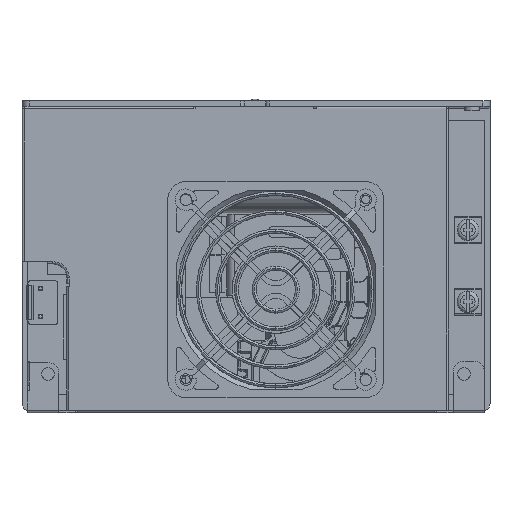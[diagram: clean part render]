
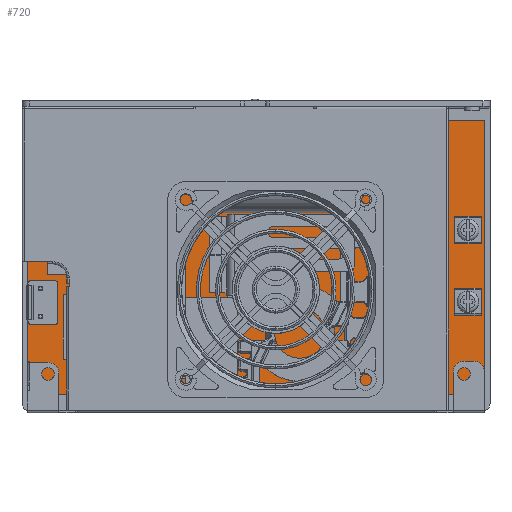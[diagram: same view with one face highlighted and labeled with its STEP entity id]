
A CAD part, top view. The second image highlights one B-rep face of the part: STEP entity #720.
In plain terms, the highlighted planar face has unit normal (0, 0, 1).
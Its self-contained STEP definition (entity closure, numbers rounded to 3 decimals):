
#10=CARTESIAN_POINT('',(0.,0.,0.));
#20=DIRECTION('',(0.,0.,1.));
#30=DIRECTION('',(1.,0.,0.));
#40=AXIS2_PLACEMENT_3D('',#10,#20,#30);
#50=PLANE('',#40);
#60=CARTESIAN_POINT('',(556.718,417.061,0.));
#70=DIRECTION('',(1.,0.,0.));
#80=VECTOR('',#70,1.);
#90=LINE('',#60,#80);
#100=CARTESIAN_POINT('',(544.468,417.061,0.));
#110=VERTEX_POINT('',#100);
#120=CARTESIAN_POINT('',(601.968,417.061,0.));
#130=VERTEX_POINT('',#120);
#140=EDGE_CURVE('',#110,#130,#90,.T.);
#150=ORIENTED_EDGE('',*,*,#140,.F.);
#160=CARTESIAN_POINT('',(601.968,417.061,0.));
#170=DIRECTION('',(0.,1.,0.));
#180=VECTOR('',#170,1.);
#190=LINE('',#160,#180);
#200=CARTESIAN_POINT('',(601.968,418.761,0.));
#210=VERTEX_POINT('',#200);
#220=EDGE_CURVE('',#130,#210,#190,.T.);
#230=ORIENTED_EDGE('',*,*,#220,.F.);
#240=CARTESIAN_POINT('',(594.968,418.761,0.));
#250=DIRECTION('',(1.,0.,0.));
#260=VECTOR('',#250,1.);
#270=LINE('',#240,#260);
#280=CARTESIAN_POINT('',(671.468,418.761,0.));
#290=VERTEX_POINT('',#280);
#300=EDGE_CURVE('',#210,#290,#270,.T.);
#310=ORIENTED_EDGE('',*,*,#300,.F.);
#320=CARTESIAN_POINT('',(671.468,342.561,0.));
#330=DIRECTION('',(0.,1.,0.));
#340=VECTOR('',#330,1.);
#350=LINE('',#320,#340);
#360=CARTESIAN_POINT('',(671.468,342.561,0.));
#370=VERTEX_POINT('',#360);
#380=EDGE_CURVE('',#370,#290,#350,.T.);
#390=ORIENTED_EDGE('',*,*,#380,.T.);
#400=CARTESIAN_POINT('',(545.068,342.561,0.));
#410=DIRECTION('',(1.,0.,0.));
#420=VECTOR('',#410,1.);
#430=LINE('',#400,#420);
#440=CARTESIAN_POINT('',(545.068,342.561,0.));
#450=VERTEX_POINT('',#440);
#460=EDGE_CURVE('',#450,#370,#430,.T.);
#470=ORIENTED_EDGE('',*,*,#460,.T.);
#480=CARTESIAN_POINT('',(545.068,342.561,0.));
#490=DIRECTION('',(0.,1.,0.));
#500=VECTOR('',#490,1.);
#510=LINE('',#480,#500);
#520=CARTESIAN_POINT('',(545.068,351.811,0.));
#530=VERTEX_POINT('',#520);
#540=EDGE_CURVE('',#450,#530,#510,.T.);
#550=ORIENTED_EDGE('',*,*,#540,.F.);
#560=CARTESIAN_POINT('',(544.468,351.811,0.));
#570=DIRECTION('',(1.,0.,0.));
#580=VECTOR('',#570,1.);
#590=LINE('',#560,#580);
#600=CARTESIAN_POINT('',(544.468,351.811,0.));
#610=VERTEX_POINT('',#600);
#620=EDGE_CURVE('',#610,#530,#590,.T.);
#630=ORIENTED_EDGE('',*,*,#620,.T.);
#640=CARTESIAN_POINT('',(544.468,351.811,0.));
#650=DIRECTION('',(0.,1.,0.));
#660=VECTOR('',#650,1.);
#670=LINE('',#640,#660);
#680=EDGE_CURVE('',#610,#110,#670,.T.);
#690=ORIENTED_EDGE('',*,*,#680,.F.);
#700=EDGE_LOOP('',(#690,#630,#550,#470,#390,#310,#230,#150));
#710=FACE_OUTER_BOUND('',#700,.T.);
#720=ADVANCED_FACE('',(#710),#50,.T.);
